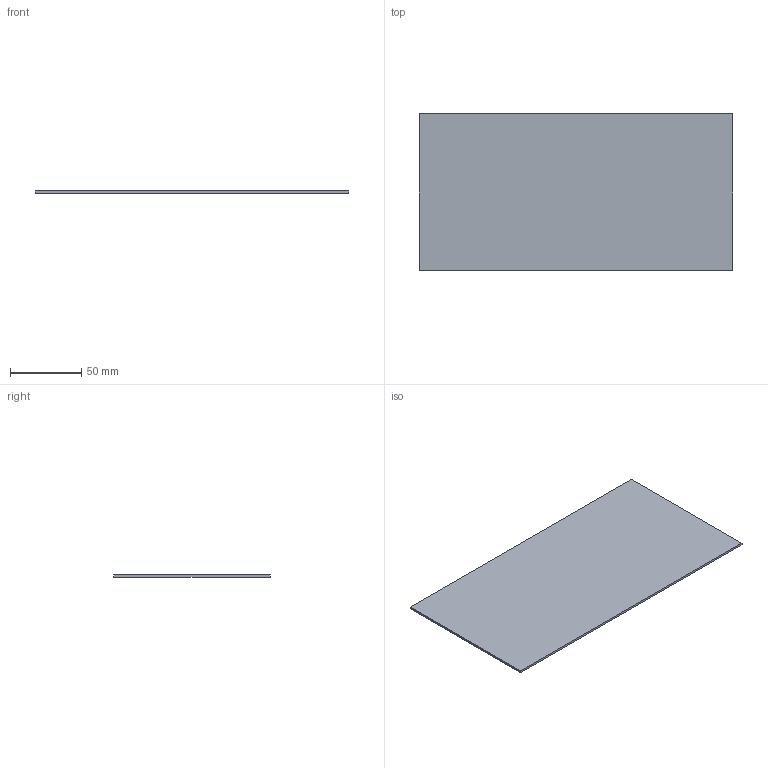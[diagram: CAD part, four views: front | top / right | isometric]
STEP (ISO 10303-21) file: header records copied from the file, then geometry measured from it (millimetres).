
FILE_DESCRIPTION(('KiCad electronic assembly'),'2;1');
FILE_NAME('board.step','2026-08-08T16:01:20',('Pcbnew'),('Kicad'), 'Open CASCADE STEP processor 7.9','KiCad to STEP converter','Unknown' );
FILE_SCHEMA(('AUTOMOTIVE_DESIGN { 1 0 10303 214 1 1 1 1 }'));
Length unit declared in the file: millimetre
Products named in the file (2): board 1; handheld_hybrid_PCB
Assembly tree (1 placements, depth 2):
  board 1
    handheld_hybrid_PCB
Bounding box: 220 x 110 x 1.52 mm (x, y, z)
Volume: 36784 mm3; surface area: 49403.2 mm2
Topology: 1 solids, 1 shells, 6 faces, 12 edges, 8 vertices
Faces by surface type: plane 6
Entity records: 193 total; most frequent: CARTESIAN_POINT 28, DIRECTION 28, ORIENTED_EDGE 24, EDGE_CURVE 12, LINE 12, VECTOR 12, AXIS2_PLACEMENT_3D 8, VERTEX_POINT 8
